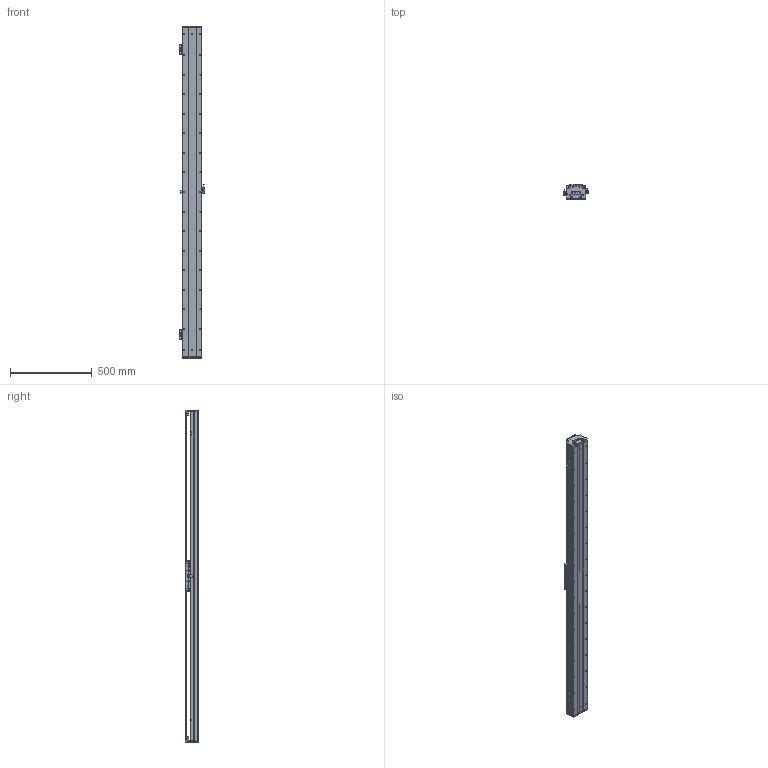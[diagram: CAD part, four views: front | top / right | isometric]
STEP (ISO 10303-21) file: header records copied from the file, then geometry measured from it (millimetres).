
FILE_DESCRIPTION (( 'STEP AP203' ), '1' );
FILE_NAME ('DKW120-B2-W060（T1740-L005-0.2）.STEP', '2021-09-02T07:06:22', ( '微软用户' ), ( '微软中国' ), 'SwSTEP 2.0', 'SolidWorks 2018', '' );
FILE_SCHEMA (( 'CONFIG_CONTROL_DESIGN' ));
Length unit declared in the file: millimetre
Products named in the file (20): 10980-0001-003-00 嫖萇羲壽嘐隅釱; 12160-0000-003-00 DKW120詩湍嶺輸; DKW-SG-GYP-H-00 嫖萇覜茼え; 12160-0000-004-00  DKW120詩湍揤輸; DKW120-B15-T300-DZ-00 菁釱; EE_SX674A; DKW120 单轴模组-拉钢带组件; MSB15-DG-U; B2-W060_00; BKMA01-W060-TRL280; 06652-0001-001-00 DKW120傷啣; DKW120-B2-W060（T1740-L005-0.2）; RUS嫖掑喜; 06652-0001-004-00 DKW120嶺輸菜輸; Ru2; DKW-HXJ-JY-00 遣喳砎蝶; RUS嫖掑郪璃; 10940-0001-004-00 120詩湍裔啣; DKW119-RU-DTJ-00 RU2黍杅芛盓殤; 砎蝶猾沭
Assembly tree (33 placements, depth 3):
  DKW120-B2-W060（T1740-L005-0.2）
    DKW120-B15-T300-DZ-00 菁釱
    MSB15-DG-U  x2
    DKW120 单轴模组-拉钢带组件
      06652-0001-001-00 DKW120傷啣  x2
      06652-0001-004-00 DKW120嶺輸菜輸  x4
      DKW-HXJ-JY-00 遣喳砎蝶  x4
      10940-0001-004-00 120詩湍裔啣
      砎蝶猾沭  x2
      12160-0000-003-00 DKW120詩湍嶺輸  x2
      12160-0000-004-00  DKW120詩湍揤輸  x2
    BKMA01-W060-TRL280
    RUS嫖掑郪璃
      RUS嫖掑喜
      Ru2
    DKW119-RU-DTJ-00 RU2黍杅芛盓殤
    10980-0001-003-00 嫖萇羲壽嘐隅釱  x2
    DKW-SG-GYP-H-00 嫖萇覜茼え
    EE_SX674A  x3
    B2-W060_00
Bounding box: 154.1 x 84 x 2036 mm (x, y, z)
Volume: 7023313.7 mm3; surface area: 2787954.4 mm2
Topology: 41 solids, 90 shells, 4280 faces, 11802 edges, 7609 vertices
Faces by surface type: plane 2279, cylinder 1422, cone 332, bspline 247
Entity records: 137334 total; most frequent: CARTESIAN_POINT 47873, ORIENTED_EDGE 18601, DIRECTION 17248, EDGE_CURVE 9341, VERTEX_POINT 6140, AXIS2_PLACEMENT_3D 5778, LINE 5692, VECTOR 5692
